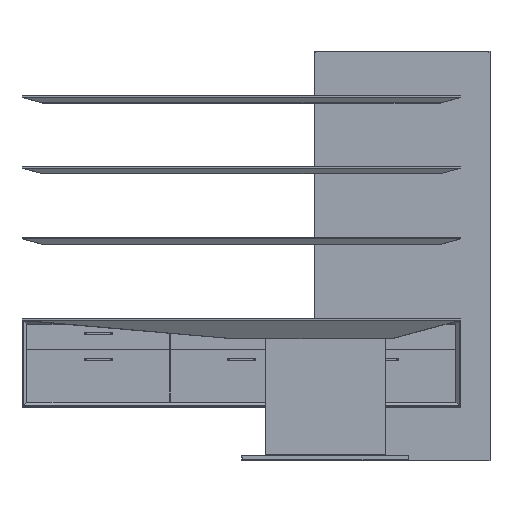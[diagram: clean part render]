
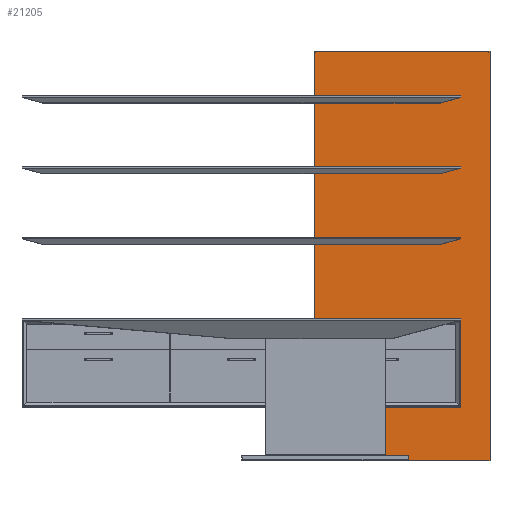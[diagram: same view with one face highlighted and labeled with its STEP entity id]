
A CAD part, top view. The second image highlights one B-rep face of the part: STEP entity #21205.
In plain terms, the highlighted planar face has unit normal (0, 0, 1).
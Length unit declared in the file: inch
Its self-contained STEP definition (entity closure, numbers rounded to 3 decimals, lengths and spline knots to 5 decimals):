
#3383=PLANE('',#23606);
#4280=FACE_OUTER_BOUND('',#5373,.T.);
#5373=EDGE_LOOP('',(#18786,#18787,#18788,#18789));
#7171=LINE('',#36426,#9166);
#7176=LINE('',#36435,#9171);
#7180=LINE('',#36443,#9175);
#7181=LINE('',#36445,#9176);
#9166=VECTOR('',#28586,0.3937);
#9171=VECTOR('',#28593,0.3937);
#9175=VECTOR('',#28601,0.3937);
#9176=VECTOR('',#28604,0.3937);
#11766=VERTEX_POINT('',#36423);
#11767=VERTEX_POINT('',#36425);
#11770=VERTEX_POINT('',#36433);
#11772=VERTEX_POINT('',#36441);
#14175=EDGE_CURVE('',#11767,#11766,#7171,.T.);
#14180=EDGE_CURVE('',#11766,#11770,#7176,.T.);
#14184=EDGE_CURVE('',#11770,#11772,#7180,.T.);
#14185=EDGE_CURVE('',#11772,#11767,#7181,.T.);
#18786=ORIENTED_EDGE('',*,*,#14184,.T.);
#18787=ORIENTED_EDGE('',*,*,#14185,.T.);
#18788=ORIENTED_EDGE('',*,*,#14175,.T.);
#18789=ORIENTED_EDGE('',*,*,#14180,.T.);
#21205=ADVANCED_FACE('',(#4280),#3383,.T.);
#23606=AXIS2_PLACEMENT_3D('',#36446,#28605,#28606);
#28586=DIRECTION('',(0.,-1.,0.));
#28593=DIRECTION('',(1.,0.,0.));
#28601=DIRECTION('',(0.,1.,0.));
#28604=DIRECTION('',(-1.,0.,0.));
#28605=DIRECTION('center_axis',(0.,0.,1.));
#28606=DIRECTION('ref_axis',(1.,0.,0.));
#36423=CARTESIAN_POINT('',(0.,0.,0.75));
#36425=CARTESIAN_POINT('',(0.,84.,0.75));
#36426=CARTESIAN_POINT('',(0.,84.,0.75));
#36433=CARTESIAN_POINT('',(36.,0.,0.75));
#36435=CARTESIAN_POINT('',(0.,0.,0.75));
#36441=CARTESIAN_POINT('',(36.,84.,0.75));
#36443=CARTESIAN_POINT('',(36.,0.,0.75));
#36445=CARTESIAN_POINT('',(36.,84.,0.75));
#36446=CARTESIAN_POINT('Origin',(18.,42.,0.75));
